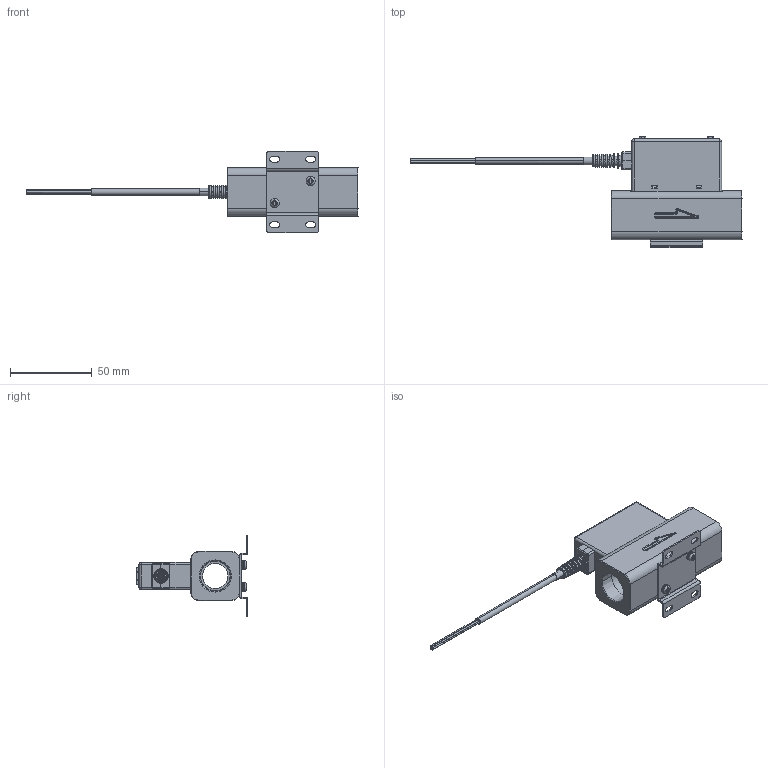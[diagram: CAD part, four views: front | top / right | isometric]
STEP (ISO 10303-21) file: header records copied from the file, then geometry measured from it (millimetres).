
FILE_DESCRIPTION(('STEP AP214'),'1');
FILE_NAME('-F7C.stp','2025-12-24T01:39:04',(' '),(' '),'Spatial InterOp 3D',' ',' ');
FILE_SCHEMA(('AUTOMOTIVE_DESIGN { 1 0 10303 214 1 1 1 1 }'));
Length unit declared in the file: millimetre
Products named in the file (8): F02-501_102-※※※-F7C; 1; 2; 3; BT-27; I-0517-A1-1000L-HOLDER; SCR-0152-A1
Assembly tree (9 placements, depth 3):
  F02-501_102-※※※-F7C
    1
    2
    3
    BT-27
      I-0517-A1-1000L-HOLDER
      SCR-0152-A1  x2
      SCR-0152-A1  x2
Bounding box: 203.1 x 68.4 x 50 mm (x, y, z)
Volume: 83591.9 mm3; surface area: 29252.6 mm2
Topology: 7 solids, 219 shells, 1111 faces, 3652 edges, 2800 vertices
Faces by surface type: plane 628, cylinder 272, bspline 89, cone 60, torus 54, sphere 8
Entity records: 53565 total; most frequent: CARTESIAN_POINT 16332, ORIENTED_EDGE 5610, DIRECTION 5554, EDGE_CURVE 3445, VERTEX_POINT 2667, LINE 2268, VECTOR 2268, AXIS2_PLACEMENT_3D 1643
